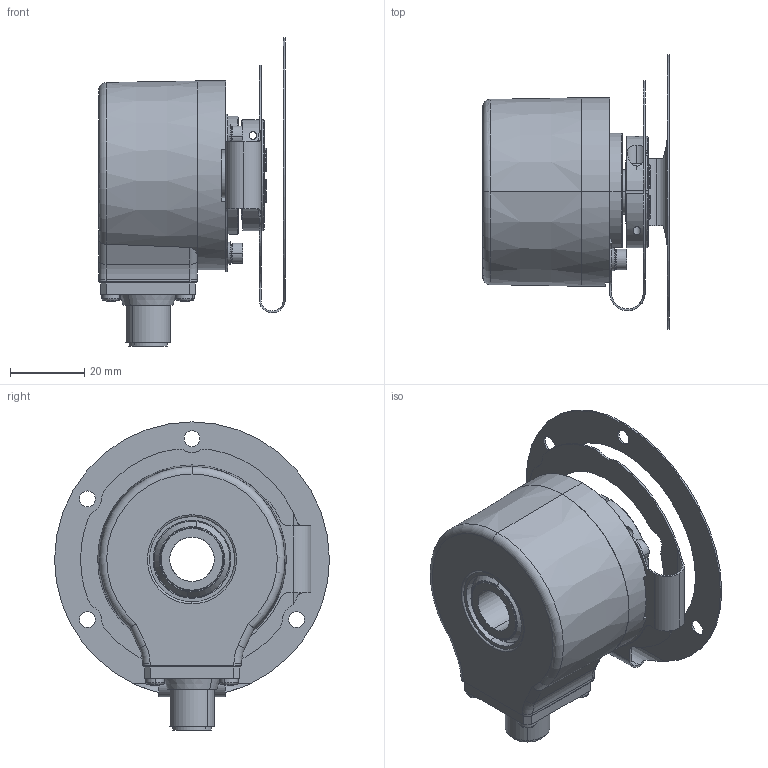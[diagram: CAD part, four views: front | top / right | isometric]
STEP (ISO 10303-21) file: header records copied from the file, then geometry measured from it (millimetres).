
FILE_DESCRIPTION (( 'STEP AP214' ), '1' );
FILE_NAME ('5020.85X2.STEP', '2007-10-30T10:34:01', ( 'DanneckerS' ), ( ' ' ), 'SwSTEP 2.0', 'SolidWorks 2007', '' );
FILE_SCHEMA (( 'AUTOMOTIVE_DESIGN' ));
Length unit declared in the file: millimetre
Products named in the file (1): 5020.85X2
Bounding box: 50.2 x 74 x 83 mm (x, y, z)
Surface area: 24055.9 mm2 (no closed solid volume)
Topology: 0 solids, 27 shells, 371 faces, 1101 edges, 731 vertices
Faces by surface type: cylinder 150, plane 126, cone 45, sphere 24, torus 22, bspline 4
Entity records: 16778 total; most frequent: CARTESIAN_POINT 2799, DIRECTION 2210, ORIENTED_EDGE 1884, EDGE_CURVE 1065, AXIS2_PLACEMENT_3D 874, VERTEX_POINT 715, CIRCLE 506, VECTOR 462
